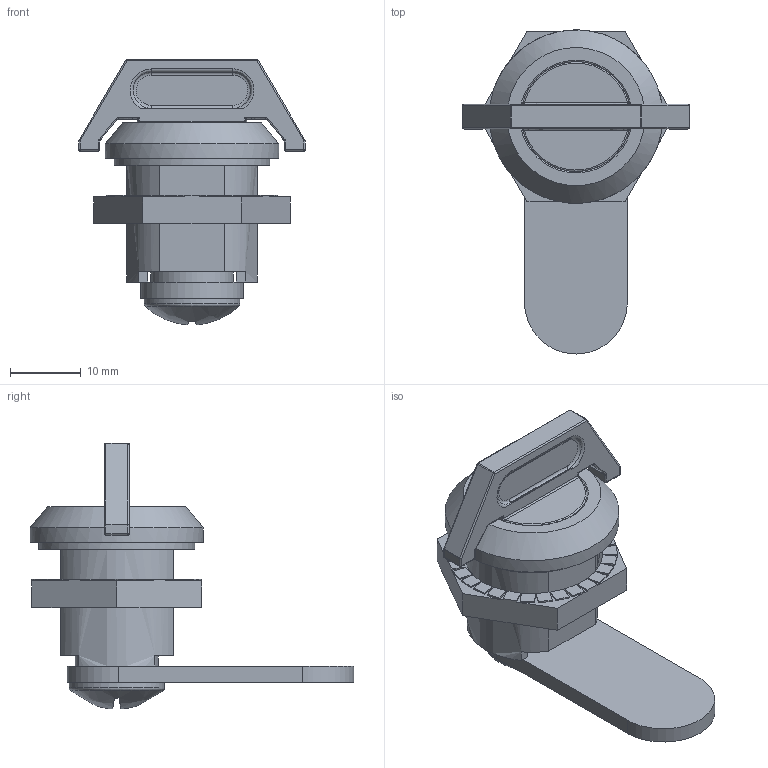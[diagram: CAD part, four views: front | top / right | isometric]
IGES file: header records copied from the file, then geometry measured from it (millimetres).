
Global section: file name: DR_KC-53; native system: Autodesk Inventor 2015; preprocessor: unknown; author: Administrator; date: 20170802.111014; units: millimetre
Bounding box: 32 x 45.74 x 37.56 mm (x, y, z)
Volume: 9315.3 mm3; surface area: 7850 mm2
Topology: 5 solids, 5 shells, 343 faces, 862 edges, 532 vertices
Faces by surface type: bspline 343
